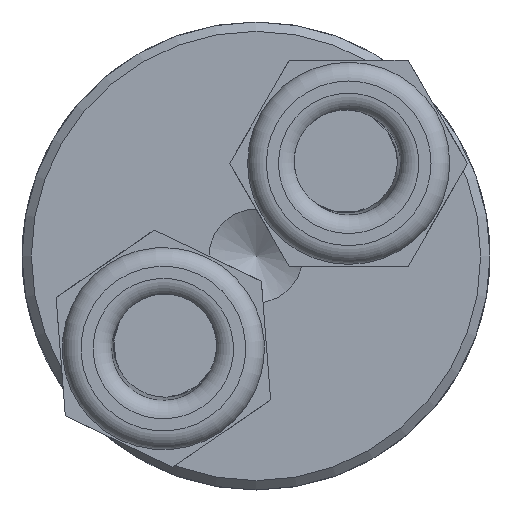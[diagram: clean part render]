
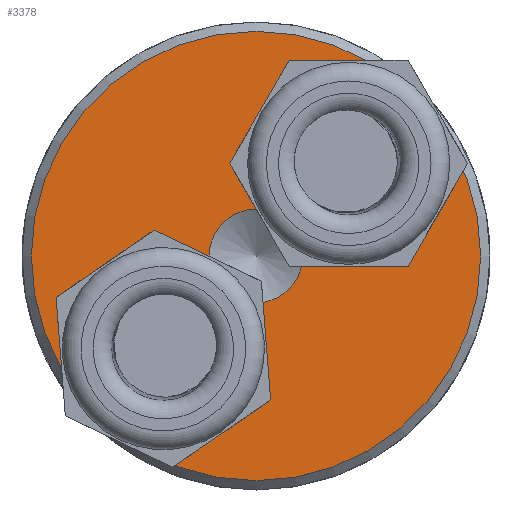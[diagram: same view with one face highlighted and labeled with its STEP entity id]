
A CAD part, left-side view. The second image highlights one B-rep face of the part: STEP entity #3378.
In plain terms, the highlighted planar face has unit normal (-1, 0, 0).
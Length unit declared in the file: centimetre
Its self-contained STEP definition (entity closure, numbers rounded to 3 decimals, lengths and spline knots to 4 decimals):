
#1197=PLANE('',#3590);
#1339=VERTEX_POINT('',#4920);
#1341=VERTEX_POINT('',#4925);
#1343=VERTEX_POINT('',#4931);
#1446=VERTEX_POINT('',#5271);
#1597=CIRCLE('',#3488,0.25);
#1599=CIRCLE('',#3491,0.3459);
#1601=CIRCLE('',#3495,0.3459);
#1627=CIRCLE('',#3589,1.2);
#1711=EDGE_CURVE('',#1339,#1339,#1597,.T.);
#1713=EDGE_CURVE('',#1341,#1341,#1599,.T.);
#1715=EDGE_CURVE('',#1343,#1343,#1601,.T.);
#1877=EDGE_CURVE('',#1446,#1446,#1627,.T.);
#2495=ORIENTED_EDGE('',*,*,#1711,.T.);
#2496=ORIENTED_EDGE('',*,*,#1713,.T.);
#2497=ORIENTED_EDGE('',*,*,#1715,.T.);
#2498=ORIENTED_EDGE('',*,*,#1877,.F.);
#2995=EDGE_LOOP('',(#2495));
#2996=EDGE_LOOP('',(#2496));
#2997=EDGE_LOOP('',(#2497));
#2998=EDGE_LOOP('',(#2498));
#3194=FACE_BOUND('',#2995,.T.);
#3195=FACE_BOUND('',#2996,.T.);
#3196=FACE_BOUND('',#2997,.T.);
#3197=FACE_BOUND('',#2998,.T.);
#3378=ADVANCED_FACE('',(#3194,#3195,#3196,#3197),#1197,.T.);
#3488=AXIS2_PLACEMENT_3D('',#4919,#3749,#3750);
#3491=AXIS2_PLACEMENT_3D('',#4924,#3755,#3756);
#3495=AXIS2_PLACEMENT_3D('',#4930,#3762,#3763);
#3589=AXIS2_PLACEMENT_3D('',#5270,#4031,#4032);
#3590=AXIS2_PLACEMENT_3D('',#5272,#4033,$);
#3749=DIRECTION('',(1.,0.,0.));
#3750=DIRECTION('',(0.,0.,0.25));
#3755=DIRECTION('',(1.,0.,0.));
#3756=DIRECTION('',(0.,0.,0.346));
#3762=DIRECTION('',(1.,0.,0.));
#3763=DIRECTION('',(0.,0.,0.346));
#4031=DIRECTION('',(1.,0.,0.));
#4032=DIRECTION('',(0.,0.,1.2));
#4033=DIRECTION('',(-1.,0.,0.));
#4919=CARTESIAN_POINT('',(0.,0.,0.));
#4920=CARTESIAN_POINT('',(0.,0.,0.25));
#4924=CARTESIAN_POINT('',(0.,-0.495,0.495));
#4925=CARTESIAN_POINT('',(0.,-0.495,0.8408));
#4930=CARTESIAN_POINT('',(0.,0.495,-0.495));
#4931=CARTESIAN_POINT('',(0.,0.495,-0.1491));
#5270=CARTESIAN_POINT('',(0.,0.,0.));
#5271=CARTESIAN_POINT('',(0.,0.,-1.2));
#5272=CARTESIAN_POINT('',(0.,0.,-0.4));
